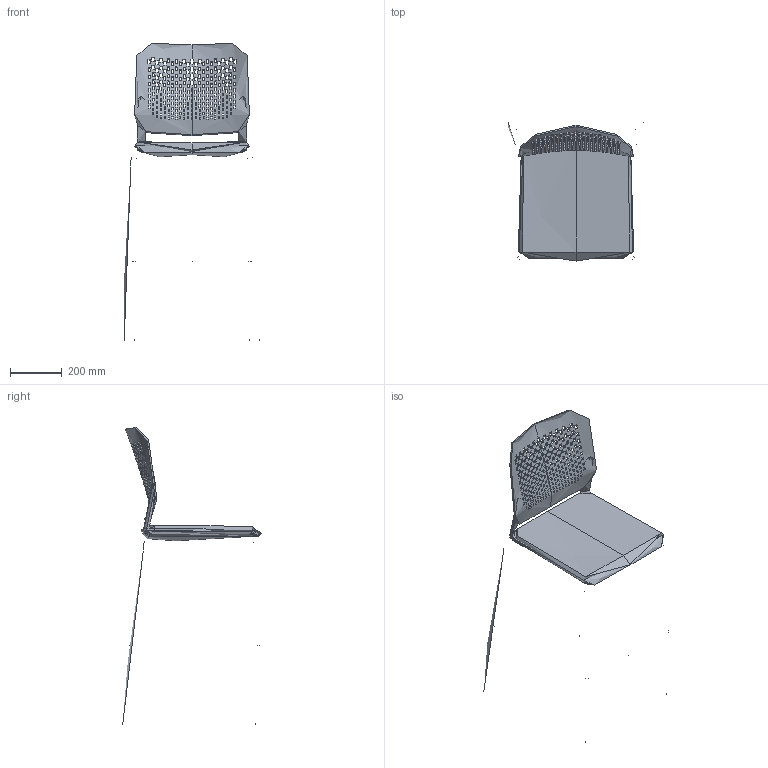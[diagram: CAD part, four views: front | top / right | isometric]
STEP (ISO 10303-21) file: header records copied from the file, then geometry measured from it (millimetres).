
FILE_DESCRIPTION(/* description */ (''),/* implementation_level */ '2;1');
FILE_NAME(/* name */ 'Time 176',/* time_stamp */ '2019-11-22T23:03:42+01:00',/* author */ (''),/* organization */ (''),/* preprocessor_version */ 'ST-DEVELOPER v16.5',/* originating_system */ '',/* authorisation */ '');
FILE_SCHEMA (('AUTOMOTIVE_DESIGN'));
Length unit declared in the file: millimetre
Products named in the file (1): Document
Bounding box: 523.92 x 535.38 x 1148.5 mm (x, y, z)
Volume: 4511806.5 mm3; surface area: 1686136.8 mm2
Topology: 1 solids, 11 shells, 1096 faces, 3235 edges, 2121 vertices
Faces by surface type: bspline 614, plane 482
Entity records: 61440 total; most frequent: CARTESIAN_POINT 40707, ORIENTED_EDGE 6424, EDGE_CURVE 3232, B_SPLINE_CURVE_WITH_KNOTS 3141, VERTEX_POINT 2119, EDGE_LOOP 1544, ADVANCED_FACE 1096, FACE_OUTER_BOUND 1096
